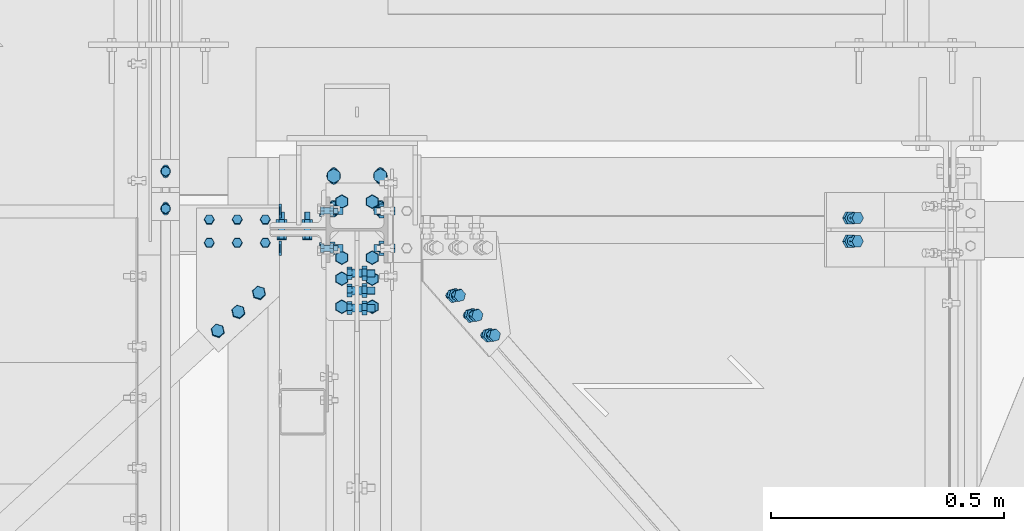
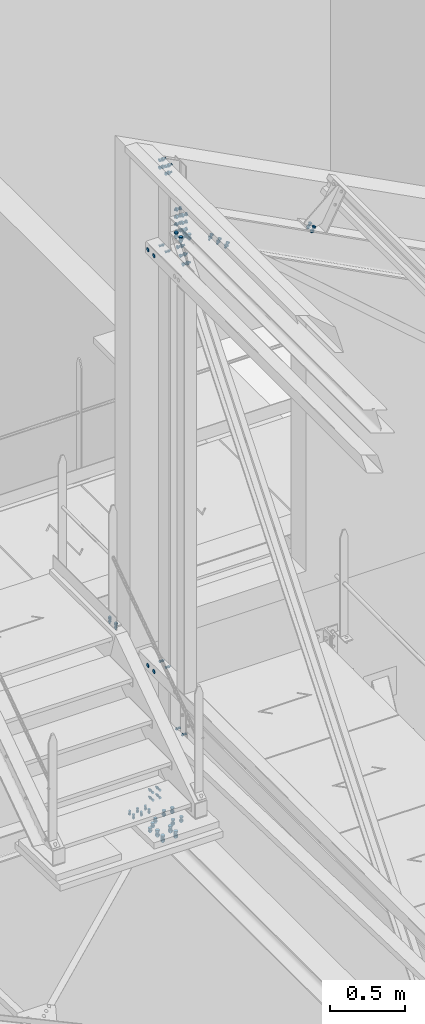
# One storey, part 157 of 362: 17 mechanical fasteners.
"""IFC2X3 building model written with IfcOpenShell, lengths in millimetres."""

from ifc_helpers import new_model, si_unit, frame, frame_2d, origin_with_axes, origin_2d_with_axis, place, context, subcontext, project, spatial, polyline, circle_curve, parameter, trimmed, segment, composite_curve, circle, outline, extrude, source, transform, mapped, material, type_object, element, save


model = new_model("IFC2X3")

# Units and contexts
model_context = context("Model", 3, precision=1e-05, world=origin_with_axes())
body_context = subcontext(model_context, "Body", "Model", "MODEL_VIEW")
ifc_project = project(units=[si_unit("LENGTHUNIT", "METRE", prefix="MILLI"), si_unit("AREAUNIT", "SQUARE_METRE"), si_unit("VOLUMEUNIT", "CUBIC_METRE"), si_unit("MASSUNIT", "GRAM", prefix="KILO"), si_unit("TIMEUNIT", "SECOND"), si_unit("PLANEANGLEUNIT", "RADIAN"), si_unit("SOLIDANGLEUNIT", "STERADIAN"), si_unit("THERMODYNAMICTEMPERATUREUNIT", "DEGREE_CELSIUS"), si_unit("LUMINOUSINTENSITYUNIT", "LUMEN")], contexts=[model_context])

# Site, building, storey
site_placement = place(None, origin_with_axes())
site = spatial("IfcSite", under=ifc_project, at=site_placement, Name="Undefined", CompositionType="ELEMENT")
building_placement = place(site_placement, origin_with_axes())
building = spatial("IfcBuilding", under=site, at=building_placement, Name="Undefined", CompositionType="ELEMENT")
storey_placement = place(building_placement, origin_with_axes())
storey = spatial("IfcBuildingStorey", under=building, at=storey_placement, Name="Undefined", CompositionType="ELEMENT", Elevation=0.0)

# Mechanical fasteners
ifc_material_1 = material(Name="8.8-SB-GALVA")
mechanical_fastener_type = type_object("IfcMechanicalFastenerType", Name="Bolt assembly")
shared_shape_1 = source(origin_with_axes(), body_context, "Body", "SweptSolid", [
    extrude(circle(Radius=7.0, at=origin_2d_with_axis()), frame((0.0, -0.100011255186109, 0.0), z_axis=(0.0, 1.0, 0.0), x_axis=(1.0, 0.0, 0.0)), (0.0, 0.0, 1.0), 12.9),
    extrude(outline(composite_curve([segment(polyline([(-7.0, 7.0), (7.0, 7.0)]), True, "CONTINUOUS"), segment(trimmed(circle_curve(frame_2d((7.0, 0.0), x_axis=(0.0, 1.0)), 7.0), [parameter(0.0)], [parameter(3.14159265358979)], False, "PARAMETER"), True, "CONTINUOUS"), segment(polyline([(7.0, -7.0), (-7.0, -7.0)]), True, "CONTINUOUS"), segment(trimmed(circle_curve(frame_2d((-7.0, 0.0), x_axis=(0.0, -1.0)), 7.0), [parameter(0.0)], [parameter(3.14159265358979)], False, "PARAMETER"), True, "DISCONTINUOUS")], self_intersect=False)), frame((0.0, -9.9, 0.0), z_axis=(0.0, 1.0, 0.0), x_axis=(1.0, 0.0, 0.0)), (0.0, 0.0, 1.0), 10.0),
    extrude(outline(polyline([(10.39230484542, 0.0), (5.19615242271, 9.00000000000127), (-5.19615242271, 9.00000000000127), (-10.39230484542, 0.0), (-5.19615242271, -9.00000000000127), (5.19615242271, -9.00000000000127), (10.39230484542, 0.0)])), frame((0.0, -21.88, 0.0), z_axis=(0.0, 1.0, 0.0), x_axis=(1.0, 0.0, 0.0)), (0.0, 0.0, 1.0), 7.92),
    extrude(circle(Radius=6.0, at=origin_2d_with_axis()), frame((0.0, -13.96, 0.0), z_axis=(0.0, 1.0, 0.0), x_axis=(1.0, 0.0, 0.0)), (0.0, 0.0, 1.0), 50.0),
    extrude(circle(Radius=10.8, at=origin_2d_with_axis()), frame((0.0, -13.96, 0.0), z_axis=(0.0, 1.0, 0.0), x_axis=(1.0, 0.0, 0.0)), (0.0, 0.0, 1.0), 3.96),
    extrude(outline(polyline([(11.5008173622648, 0.0), (5.7504086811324, 9.96000000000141), (-5.7504086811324, 9.96000000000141), (-11.5008173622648, 0.0), (-5.7504086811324, -9.96000000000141), (5.7504086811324, -9.96000000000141), (11.5008173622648, 0.0)])), frame((0.0, 12.8008451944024, 0.0), z_axis=(0.0, 1.0, 0.0), x_axis=(1.0, 0.0, 0.0)), (0.0, 0.0, 1.0), 7.92),
])
mechanical_fastener_1_placement = place(storey_placement, frame((12269.9936634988, 15245.0038033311, 8910.0), z_axis=(-1.0, 0.0, 0.0), x_axis=(0.0, 1.0, 0.0)))
element("IfcMechanicalFastener", 1, at=mechanical_fastener_1_placement, inside=storey, type_object=mechanical_fastener_type, material=ifc_material_1, Name="Bolt assembly", NominalDiameter=12.0, NominalLength=50.0, context=body_context, shape_type="MappedRepresentation", body=[
    mapped(shared_shape_1, transform((0.0, 0.0, 0.0))),
    mapped(shared_shape_1, transform((80.0, 0.0, 0.0))),
])
ifc_material_2 = material(Name="6.8")
shared_shape_2 = source(origin_with_axes(), body_context, "Body", "SweptSolid", [
    extrude(circle(Radius=15.0, at=origin_2d_with_axis()), frame((0.0, 0.0, 0.0), z_axis=(0.0, 1.0, 0.0), x_axis=(1.0, 0.0, 0.0)), (0.0, 0.0, 1.0), 4.1),
])
mechanical_fastener_2_placement = place(storey_placement, frame((12513.5000000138, 15200.0, 11870.0), z_axis=(0.0, 1.0, 0.0), x_axis=(0.0, 0.0, 1.0)))
element("IfcMechanicalFastener", 2, at=mechanical_fastener_2_placement, inside=storey, type_object=mechanical_fastener_type, material=ifc_material_2, Name="Bolt assembly", NominalDiameter=30.0, NominalLength=4.0, context=body_context, shape_type="MappedRepresentation", body=[
    mapped(shared_shape_2, transform((0.0, 0.0, 40.0))),
    mapped(shared_shape_2, transform((0.0, 0.0, -40.0))),
])
mechanical_fastener_3_placement = place(storey_placement, frame((12513.5000000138, 15200.0, 8500.0), z_axis=(0.0, -1.0, 0.0), x_axis=(0.0, 0.0, -1.0)))
element("IfcMechanicalFastener", 3, at=mechanical_fastener_3_placement, inside=storey, type_object=mechanical_fastener_type, material=ifc_material_2, Name="Bolt assembly", NominalDiameter=30.0, NominalLength=4.0, context=body_context, shape_type="MappedRepresentation", body=[
    mapped(shared_shape_2, transform((0.0, 0.0, -40.0))),
    mapped(shared_shape_2, transform((0.0, 0.0, 40.0))),
])
ifc_material_3 = material(Name="8.8-SB-ZINGUE")
shared_shape_3 = source(origin_with_axes(), body_context, "Body", "SweptSolid", [
    extrude(circle(Radius=9.0, at=origin_2d_with_axis()), frame((0.0, -10.9000000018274, 0.0), z_axis=(0.0, 1.0, 0.0), x_axis=(1.0, 0.0, 0.0)), (0.0, 0.0, 1.0), 6.0),
    extrude(circle(Radius=9.0, at=origin_2d_with_axis()), frame((0.0, 4.9000000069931, 0.0), z_axis=(0.0, 1.0, 0.0), x_axis=(1.0, 0.0, 0.0)), (0.0, 0.0, 1.0), 6.1),
    extrude(circle(Radius=9.0, at=origin_2d_with_axis()), frame((0.0, -3.99999923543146, 0.0), z_axis=(0.0, 1.0, 0.0), x_axis=(1.0, 0.0, 0.0)), (0.0, 0.0, 1.0), 8.0),
    extrude(outline(polyline([(13.85640646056, 0.0), (6.92820323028, 12.0000000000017), (-6.92820323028, 12.0000000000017), (-13.85640646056, 0.0), (-6.92820323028, -12.0000000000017), (6.92820323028, -12.0000000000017), (13.85640646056, 0.0)])), frame((0.0, -21.5600000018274, 0.0), z_axis=(0.0, 1.0, 0.0), x_axis=(1.0, 0.0, 0.0)), (0.0, 0.0, 1.0), 10.56),
    extrude(circle(Radius=8.0, at=origin_2d_with_axis()), frame((0.0, -11.0000000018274, 0.0), z_axis=(0.0, 1.0, 0.0), x_axis=(1.0, 0.0, 0.0)), (0.0, 0.0, 1.0), 50.0),
    extrude(outline(polyline([(15.3344231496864, 0.0), (7.6672115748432, 13.2800000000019), (-7.6672115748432, 13.2800000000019), (-15.3344231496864, 0.0), (-7.6672115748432, -13.2800000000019), (7.6672115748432, -13.2800000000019), (15.3344231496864, 0.0)])), frame((0.0, 11.0000000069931, 0.0), z_axis=(0.0, 1.0, 0.0), x_axis=(1.0, 0.0, 0.0)), (0.0, 0.0, 1.0), 10.56),
])
mechanical_fastener_4_placement = place(storey_placement, frame((12680.0, 15106.739370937, 11919.5161497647), z_axis=(0.0, -0.783225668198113, 0.621737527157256), x_axis=(0.0, -0.621737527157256, -0.783225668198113)))
element("IfcMechanicalFastener", 4, at=mechanical_fastener_4_placement, inside=storey, type_object=mechanical_fastener_type, material=ifc_material_3, Name="Bolt assembly", NominalDiameter=16.0, NominalLength=50.0, context=body_context, shape_type="MappedRepresentation", body=[
    mapped(shared_shape_3, transform((0.0, 0.0, 0.0))),
    mapped(shared_shape_3, transform((60.0, 0.0, 0.0))),
    mapped(shared_shape_3, transform((120.0, 0.0, 0.0))),
])
shared_shape_4 = source(origin_with_axes(), body_context, "Body", "SweptSolid", [
    extrude(circle(Radius=9.0, at=origin_2d_with_axis()), frame((0.0, 5.89749077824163, 0.0), z_axis=(0.0, 1.0, 0.0), x_axis=(1.0, 0.0, 0.0)), (0.0, 0.0, 1.0), 5.1),
    extrude(circle(Radius=9.0, at=origin_2d_with_axis()), frame((0.0, 0.1, 0.0), z_axis=(0.0, 1.0, 0.0), x_axis=(1.0, 0.0, 0.0)), (0.0, 0.0, 1.0), 6.0),
    extrude(outline(polyline([(13.85640646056, 0.0), (6.92820323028, 12.0000000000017), (-6.92820323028, 12.0000000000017), (-13.85640646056, 0.0), (-6.92820323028, -12.0000000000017), (6.92820323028, -12.0000000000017), (13.85640646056, 0.0)])), frame((0.0, -10.5600019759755, 0.0), z_axis=(0.0, 1.0, 0.0), x_axis=(1.0, 0.0, 0.0)), (0.0, 0.0, 1.0), 10.56),
    extrude(circle(Radius=8.0, at=origin_2d_with_axis()), frame((0.0, 0.0, 0.0), z_axis=(0.0, 1.0, 0.0), x_axis=(1.0, 0.0, 0.0)), (0.0, 0.0, 1.0), 30.0),
    extrude(outline(polyline([(15.3344231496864, 0.0), (7.6672115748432, 13.2800000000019), (-7.6672115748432, 13.2800000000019), (-15.3344231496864, 0.0), (-7.6672115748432, -13.2800000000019), (7.6672115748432, -13.2800000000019), (15.3344231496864, 0.0)])), frame((0.0, 10.9974907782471, 0.0), z_axis=(0.0, 1.0, 0.0), x_axis=(1.0, 0.0, 0.0)), (0.0, 0.0, 1.0), 10.56),
])
mechanical_fastener_5_placement = place(storey_placement, frame((12469.9723570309, 15064.9137448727, 7376.46725450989), z_axis=(0.676965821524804, -0.735651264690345, 0.0231191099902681), x_axis=(-0.73601445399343, -0.676631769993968, 0.021264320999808)))
element("IfcMechanicalFastener", 5, at=mechanical_fastener_5_placement, inside=storey, type_object=mechanical_fastener_type, material=ifc_material_3, Name="Bolt assembly", NominalDiameter=16.0, NominalLength=30.0, context=body_context, shape_type="MappedRepresentation", body=[
    mapped(shared_shape_4, transform((0.0, 0.0, 0.0))),
    mapped(shared_shape_4, transform((60.0, 0.0, 0.0))),
    mapped(shared_shape_4, transform((120.0, 0.0, 0.0))),
])
shared_shape_5 = source(origin_with_axes(), body_context, "Body", "SweptSolid", [
    extrude(circle(Radius=7.0, at=origin_2d_with_axis()), frame((0.0, -8.40001950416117, 0.0), z_axis=(0.0, 1.0, 0.0), x_axis=(1.0, 0.0, 0.0)), (0.0, 0.0, 1.0), 8.5),
    extrude(circle(Radius=7.0, at=origin_2d_with_axis()), frame((0.0, -0.100011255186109, 0.0), z_axis=(0.0, 1.0, 0.0), x_axis=(1.0, 0.0, 0.0)), (0.0, 0.0, 1.0), 6.1),
    extrude(outline(polyline([(10.39230484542, 0.0), (5.19615242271, 9.00000000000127), (-5.19615242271, 9.00000000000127), (-10.39230484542, 0.0), (-5.19615242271, -9.00000000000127), (5.19615242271, -9.00000000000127), (10.39230484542, 0.0)])), frame((0.0, -16.4200195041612, 0.0), z_axis=(0.0, 1.0, 0.0), x_axis=(1.0, 0.0, 0.0)), (0.0, 0.0, 1.0), 7.92),
    extrude(circle(Radius=6.0, at=origin_2d_with_axis()), frame((0.0, -8.5, 0.0), z_axis=(0.0, 1.0, 0.0), x_axis=(1.0, 0.0, 0.0)), (0.0, 0.0, 1.0), 30.0),
    extrude(outline(polyline([(11.5008173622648, 0.0), (5.7504086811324, 9.96000000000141), (-5.7504086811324, 9.96000000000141), (-11.5008173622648, 0.0), (-5.7504086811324, -9.96000000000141), (5.7504086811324, -9.96000000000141), (11.5008173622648, 0.0)])), frame((0.0, 6.0, 0.0), z_axis=(0.0, 1.0, 0.0), x_axis=(1.0, 0.0, 0.0)), (0.0, 0.0, 1.0), 7.92),
])
mechanical_fastener_6_placement = place(storey_placement, frame((12483.4999930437, 15196.8588775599, 7372.32065103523), z_axis=(0.0, -0.999506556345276, 0.031410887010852), x_axis=(-1.0, 0.0, 0.0)))
element("IfcMechanicalFastener", 6, at=mechanical_fastener_6_placement, inside=storey, type_object=mechanical_fastener_type, material=ifc_material_3, Name="Bolt assembly", NominalDiameter=12.0, NominalLength=30.0, context=body_context, shape_type="MappedRepresentation", body=[
    mapped(shared_shape_5, transform((0.0, 0.0, -25.0))),
    mapped(shared_shape_5, transform((59.9999999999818, -8.18545231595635e-12, -25.0000000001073))),
    mapped(shared_shape_5, transform((119.999999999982, -1.72803993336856e-11, -25.0000000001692))),
    mapped(shared_shape_5, transform((0.0, 0.0, 25.0))),
    mapped(shared_shape_5, transform((60.00000000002, -1.00044417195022e-11, 24.9999999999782))),
    mapped(shared_shape_5, transform((120.00000000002, -1.90993887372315e-11, 24.9999999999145))),
])
shared_shape_6 = source(origin_with_axes(), body_context, "Body", "SweptSolid", [
    extrude(circle(Radius=7.0, at=origin_2d_with_axis()), frame((0.0, -0.0917710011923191, 0.0), z_axis=(0.0, 1.0, 0.0), x_axis=(1.0, 0.0, 0.0)), (0.0, 0.0, 1.0), 8.6),
    extrude(circle(Radius=7.0, at=origin_2d_with_axis()), frame((0.0, -6.9, 0.0), z_axis=(0.0, 1.0, 0.0), x_axis=(1.0, 0.0, 0.0)), (0.0, 0.0, 1.0), 7.0),
    extrude(outline(polyline([(10.39230484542, 0.0), (5.19615242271, 9.00000000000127), (-5.19615242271, 9.00000000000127), (-10.39230484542, 0.0), (-5.19615242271, -9.00000000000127), (5.19615242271, -9.00000000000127), (10.39230484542, 0.0)])), frame((0.0, -14.92, 0.0), z_axis=(0.0, 1.0, 0.0), x_axis=(1.0, 0.0, 0.0)), (0.0, 0.0, 1.0), 7.92),
    extrude(circle(Radius=6.0, at=origin_2d_with_axis()), frame((0.0, -7.0, 0.0), z_axis=(0.0, 1.0, 0.0), x_axis=(1.0, 0.0, 0.0)), (0.0, 0.0, 1.0), 30.0),
    extrude(outline(polyline([(11.5008173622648, 0.0), (5.7504086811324, 9.96000000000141), (-5.7504086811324, 9.96000000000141), (-11.5008173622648, 0.0), (-5.7504086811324, -9.96000000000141), (5.7504086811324, -9.96000000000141), (11.5008173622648, 0.0)])), frame((0.0, 8.50822899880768, 0.0), z_axis=(0.0, 1.0, 0.0), x_axis=(1.0, 0.0, 0.0)), (0.0, 0.0, 1.0), 7.92),
])
mechanical_fastener_7_placement = place(storey_placement, frame((12746.5082291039, 15200.0, 7909.99999999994), z_axis=(0.0, -1.0, 0.0), x_axis=(0.0, 0.0, 1.0)))
element("IfcMechanicalFastener", 7, at=mechanical_fastener_7_placement, inside=storey, type_object=mechanical_fastener_type, material=ifc_material_3, Name="Bolt assembly", NominalDiameter=12.0, NominalLength=30.0, context=body_context, shape_type="MappedRepresentation", body=[
    mapped(shared_shape_6, transform((0.0, 0.0, -40.0))),
    mapped(shared_shape_6, transform((0.0, 0.0, 40.0))),
])
shared_shape_7 = source(origin_with_axes(), body_context, "Body", "SweptSolid", [
    extrude(circle(Radius=9.0, at=origin_2d_with_axis()), frame((0.0, -0.10007666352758, 0.0), z_axis=(0.0, 1.0, 0.0), x_axis=(1.0, 0.0, 0.0)), (0.0, 0.0, 1.0), 9.9),
    extrude(circle(Radius=9.0, at=origin_2d_with_axis()), frame((0.0, -9.9, 0.0), z_axis=(0.0, 1.0, 0.0), x_axis=(1.0, 0.0, 0.0)), (0.0, 0.0, 1.0), 10.0),
    extrude(outline(polyline([(13.85640646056, 0.0), (6.92820323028, 12.0000000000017), (-6.92820323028, 12.0000000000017), (-13.85640646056, 0.0), (-6.92820323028, -12.0000000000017), (6.92820323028, -12.0000000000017), (13.85640646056, 0.0)])), frame((0.0, -20.5600000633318, 0.0), z_axis=(0.0, 1.0, 0.0), x_axis=(1.0, 0.0, 0.0)), (0.0, 0.0, 1.0), 10.56),
    extrude(circle(Radius=8.0, at=origin_2d_with_axis()), frame((0.0, -10.0000010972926, 0.0), z_axis=(0.0, 1.0, 0.0), x_axis=(1.0, 0.0, 0.0)), (0.0, 0.0, 1.0), 40.0),
    extrude(outline(polyline([(15.3344231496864, 0.0), (7.6672115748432, 13.2800000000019), (-7.6672115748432, 13.2800000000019), (-15.3344231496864, 0.0), (-7.6672115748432, -13.2800000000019), (7.6672115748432, -13.2800000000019), (15.3344231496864, 0.0)])), frame((0.0, 9.7999015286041, 0.0), z_axis=(0.0, 1.0, 0.0), x_axis=(1.0, 0.0, 0.0)), (0.0, 0.0, 1.0), 10.56),
])
mechanical_fastener_8_placement = place(storey_placement, frame((13742.7711979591, 15200.0000375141, 11650.6600426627), z_axis=(0.0, 1.0, 0.0), x_axis=(0.886081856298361, 3.500000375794e-08, -0.463528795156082)))
element("IfcMechanicalFastener", 8, at=mechanical_fastener_8_placement, inside=storey, type_object=mechanical_fastener_type, material=ifc_material_3, Name="Bolt assembly", NominalDiameter=16.0, NominalLength=40.0, context=body_context, shape_type="MappedRepresentation", body=[
    mapped(shared_shape_7, transform((0.0, 0.0, -25.0))),
    mapped(shared_shape_7, transform((0.0, 0.0, 25.0))),
])
ifc_material_4 = material(Name="#_SB-8.8-ZINGUE")
shared_shape_8 = source(origin_with_axes(), body_context, "Body", "SweptSolid", [
    extrude(circle(Radius=9.0, at=origin_2d_with_axis()), frame((0.0, -5.9000361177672, 0.0), z_axis=(0.0, 1.0, 0.0), x_axis=(1.0, 0.0, 0.0)), (0.0, 0.0, 1.0), 6.0),
    extrude(circle(Radius=9.0, at=origin_2d_with_axis()), frame((0.0, -0.100011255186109, 0.0), z_axis=(0.0, 1.0, 0.0), x_axis=(1.0, 0.0, 0.0)), (0.0, 0.0, 1.0), 6.1),
    extrude(outline(polyline([(13.85640646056, 0.0), (6.92820323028, 12.0000000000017), (-6.92820323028, 12.0000000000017), (-13.85640646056, 0.0), (-6.92820323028, -12.0000000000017), (6.92820323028, -12.0000000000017), (13.85640646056, 0.0)])), frame((0.0, -16.5600265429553, 0.0), z_axis=(0.0, 1.0, 0.0), x_axis=(1.0, 0.0, 0.0)), (0.0, 0.0, 1.0), 10.56),
    extrude(circle(Radius=8.0, at=origin_2d_with_axis()), frame((0.0, -6.00003611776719, 0.0), z_axis=(0.0, 1.0, 0.0), x_axis=(1.0, 0.0, 0.0)), (0.0, 0.0, 1.0), 40.0),
    extrude(outline(polyline([(15.3344231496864, 0.0), (7.6672115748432, 13.2800000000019), (-7.6672115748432, 13.2800000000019), (-15.3344231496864, 0.0), (-7.6672115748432, -13.2800000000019), (7.6672115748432, -13.2800000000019), (15.3344231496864, 0.0)])), frame((0.0, 6.0, 0.0), z_axis=(0.0, 1.0, 0.0), x_axis=(1.0, 0.0, 0.0)), (0.0, 0.0, 1.0), 10.56),
])
mechanical_fastener_9_placement = place(storey_placement, frame((12892.7685695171, 15059.0095093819, 11959.8870358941), z_axis=(0.628485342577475, 0.704921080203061, -0.328774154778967), x_axis=(0.624617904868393, -0.709285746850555, -0.326750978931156)))
element("IfcMechanicalFastener", 9, at=mechanical_fastener_9_placement, inside=storey, type_object=mechanical_fastener_type, material=ifc_material_4, Name="Bolt assembly", NominalDiameter=16.0, NominalLength=40.0, context=body_context, shape_type="MappedRepresentation", body=[
    mapped(shared_shape_8, transform((0.0, 0.0, 0.0))),
    mapped(shared_shape_8, transform((60.0, 0.0, 0.0))),
    mapped(shared_shape_8, transform((120.0, 0.0, 0.0))),
])
shared_shape_9 = source(origin_with_axes(), body_context, "Body", "SweptSolid", [
    extrude(circle(Radius=9.0, at=origin_2d_with_axis()), frame((0.0, -0.091713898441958, 0.0), z_axis=(0.0, 1.0, 0.0), x_axis=(1.0, 0.0, 0.0)), (0.0, 0.0, 1.0), 8.6),
    extrude(circle(Radius=9.0, at=origin_2d_with_axis()), frame((0.0, -9.89171439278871, 0.0), z_axis=(0.0, 1.0, 0.0), x_axis=(1.0, 0.0, 0.0)), (0.0, 0.0, 1.0), 10.0),
    extrude(outline(polyline([(13.85640646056, 0.0), (6.92820323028, 12.0000000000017), (-6.92820323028, 12.0000000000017), (-13.85640646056, 0.0), (-6.92820323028, -12.0000000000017), (6.92820323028, -12.0000000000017), (13.85640646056, 0.0)])), frame((0.0, -20.5517143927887, 0.0), z_axis=(0.0, 1.0, 0.0), x_axis=(1.0, 0.0, 0.0)), (0.0, 0.0, 1.0), 10.56),
    extrude(circle(Radius=8.0, at=origin_2d_with_axis()), frame((0.0, -9.99171439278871, 0.0), z_axis=(0.0, 1.0, 0.0), x_axis=(1.0, 0.0, 0.0)), (0.0, 0.0, 1.0), 40.0),
    extrude(outline(polyline([(15.3344231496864, 0.0), (7.6672115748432, 13.2800000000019), (-7.6672115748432, 13.2800000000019), (-15.3344231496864, 0.0), (-7.6672115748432, -13.2800000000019), (7.6672115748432, -13.2800000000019), (15.3344231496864, 0.0)])), frame((0.0, 8.50828610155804, 0.0), z_axis=(0.0, 1.0, 0.0), x_axis=(1.0, 0.0, 0.0)), (0.0, 0.0, 1.0), 10.56),
])
mechanical_fastener_10_placement = place(storey_placement, frame((12746.5082856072, 15160.0, 12031.1720690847), z_axis=(0.0, 0.0, 1.0), x_axis=(0.0, 1.0, 0.0)))
element("IfcMechanicalFastener", 10, at=mechanical_fastener_10_placement, inside=storey, type_object=mechanical_fastener_type, material=ifc_material_3, Name="Bolt assembly", NominalDiameter=16.0, NominalLength=40.0, context=body_context, shape_type="MappedRepresentation", body=[
    mapped(shared_shape_9, transform((-8.00355337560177e-11, 1.57342583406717e-10, -90.000000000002))),
    mapped(shared_shape_9, transform((80.0, 0.0, -90.0))),
    mapped(shared_shape_9, transform((0.0, 0.0, -30.0))),
    mapped(shared_shape_9, transform((80.0, 0.0, -30.0))),
    mapped(shared_shape_9, transform((0.0, 0.0, 30.0))),
    mapped(shared_shape_9, transform((80.0, 0.0, 30.0))),
    mapped(shared_shape_9, transform((8.36735125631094e-11, -1.5825207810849e-10, 90.0))),
    mapped(shared_shape_9, transform((80.0, 0.0, 90.0))),
])
shared_shape_10 = source(origin_with_axes(), body_context, "Body", "SweptSolid", [
    extrude(circle(Radius=7.0, at=origin_2d_with_axis()), frame((0.0, -3.89999843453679, 0.0), z_axis=(0.0, 1.0, 0.0), x_axis=(1.0, 0.0, 0.0)), (0.0, 0.0, 1.0), 4.0),
    extrude(circle(Radius=7.0, at=origin_2d_with_axis()), frame((0.0, -0.100011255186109, 0.0), z_axis=(0.0, 1.0, 0.0), x_axis=(1.0, 0.0, 0.0)), (0.0, 0.0, 1.0), 8.6),
    extrude(outline(polyline([(10.39230484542, 0.0), (5.19615242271, 9.00000000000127), (-5.19615242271, 9.00000000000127), (-10.39230484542, 0.0), (-5.19615242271, -9.00000000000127), (5.19615242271, -9.00000000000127), (10.39230484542, 0.0)])), frame((0.0, -11.9199984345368, 0.0), z_axis=(0.0, 1.0, 0.0), x_axis=(1.0, 0.0, 0.0)), (0.0, 0.0, 1.0), 7.92),
    extrude(circle(Radius=6.0, at=origin_2d_with_axis()), frame((0.0, -3.99999923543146, 0.0), z_axis=(0.0, 1.0, 0.0), x_axis=(1.0, 0.0, 0.0)), (0.0, 0.0, 1.0), 30.0),
    extrude(outline(polyline([(11.5008173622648, 0.0), (5.7504086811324, 9.96000000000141), (-5.7504086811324, 9.96000000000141), (-11.5008173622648, 0.0), (-5.7504086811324, -9.96000000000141), (5.7504086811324, -9.96000000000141), (11.5008173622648, 0.0)])), frame((0.0, 8.49999994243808, 0.0), z_axis=(0.0, 1.0, 0.0), x_axis=(1.0, 0.0, 0.0)), (0.0, 0.0, 1.0), 7.92),
])
for number, where, z_axis, x_axis, name in (
    (11, (12613.5, 15200.0, 11870.0), (0.0, 1.0, 0.0), (0.0, 0.0, 1.0), "Bolt assembly"),
    (12, (12613.5, 15200.0, 8500.0), (0.0, -1.0, 0.0), (0.0, 0.0, -1.0), "Bolt assembly"),
):
    element("IfcMechanicalFastener", number, at=place(storey_placement, frame(where, z_axis=z_axis, x_axis=x_axis)), inside=storey, type_object=mechanical_fastener_type, material=ifc_material_3, Name=name, NominalDiameter=12.0, NominalLength=30.0, context=body_context, shape_type="MappedRepresentation", body=[
        mapped(shared_shape_10, transform((0.0, 0.0, -40.0))),
        mapped(shared_shape_10, transform((0.0, 0.0, 40.0))),
    ])
shared_shape_11 = source(origin_with_axes(), body_context, "Body", "SweptSolid", [
    extrude(circle(Radius=9.0, at=origin_2d_with_axis()), frame((0.0, -0.100011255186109, 0.0), z_axis=(0.0, 1.0, 0.0), x_axis=(1.0, 0.0, 0.0)), (0.0, 0.0, 1.0), 8.6),
    extrude(circle(Radius=9.0, at=origin_2d_with_axis()), frame((0.0, -2.9, 0.0), z_axis=(0.0, 1.0, 0.0), x_axis=(1.0, 0.0, 0.0)), (0.0, 0.0, 1.0), 3.0),
    extrude(outline(polyline([(13.85640646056, 0.0), (6.92820323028, 12.0000000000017), (-6.92820323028, 12.0000000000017), (-13.85640646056, 0.0), (-6.92820323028, -12.0000000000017), (6.92820323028, -12.0000000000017), (13.85640646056, 0.0)])), frame((0.0, -13.56, 0.0), z_axis=(0.0, 1.0, 0.0), x_axis=(1.0, 0.0, 0.0)), (0.0, 0.0, 1.0), 10.56),
    extrude(circle(Radius=8.0, at=origin_2d_with_axis()), frame((0.0, -2.99999932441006, 0.0), z_axis=(0.0, 1.0, 0.0), x_axis=(1.0, 0.0, 0.0)), (0.0, 0.0, 1.0), 40.0),
    extrude(outline(polyline([(15.3344231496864, 0.0), (7.6672115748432, 13.2800000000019), (-7.6672115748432, 13.2800000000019), (-15.3344231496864, 0.0), (-7.6672115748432, -13.2800000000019), (7.6672115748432, -13.2800000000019), (15.3344231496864, 0.0)])), frame((0.0, 8.49999994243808, 0.0), z_axis=(0.0, 1.0, 0.0), x_axis=(1.0, 0.0, 0.0)), (0.0, 0.0, 1.0), 10.56),
])
mechanical_fastener_11_placement = place(storey_placement, frame((12613.5000000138, 15200.0, 12503.832072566), z_axis=(0.0, 1.0, 0.0), x_axis=(0.0, 0.0, 1.0)))
element("IfcMechanicalFastener", 13, at=mechanical_fastener_11_placement, inside=storey, type_object=mechanical_fastener_type, material=ifc_material_3, Name="Bolt assembly", NominalDiameter=16.0, NominalLength=40.0, context=body_context, shape_type="MappedRepresentation", body=[
    mapped(shared_shape_11, transform((0.0, 0.0, -40.0))),
    mapped(shared_shape_11, transform((60.0, 0.0, -40.0))),
    mapped(shared_shape_11, transform((0.0, 0.0, 40.0))),
    mapped(shared_shape_11, transform((60.0, 0.0, 40.0))),
])
shared_shape_12 = source(origin_with_axes(), body_context, "Body", "SweptSolid", [
    extrude(circle(Radius=7.0, at=origin_2d_with_axis()), frame((0.0, -2.80024280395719, 0.0), z_axis=(0.0, 1.0, 0.0), x_axis=(1.0, 0.0, 0.0)), (0.0, 0.0, 1.0), 5.6),
    extrude(circle(Radius=7.0, at=origin_2d_with_axis()), frame((0.0, -12.9001594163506, 0.0), z_axis=(0.0, 1.0, 0.0), x_axis=(1.0, 0.0, 0.0)), (0.0, 0.0, 1.0), 10.0),
    extrude(circle(Radius=7.0, at=origin_2d_with_axis()), frame((0.0, 2.90070287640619, 0.0), z_axis=(0.0, 1.0, 0.0), x_axis=(1.0, 0.0, 0.0)), (0.0, 0.0, 1.0), 10.1),
    extrude(outline(polyline([(10.39230484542, 0.0), (5.19615242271, 9.00000000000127), (-5.19615242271, 9.00000000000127), (-10.39230484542, 0.0), (-5.19615242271, -9.00000000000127), (5.19615242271, -9.00000000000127), (10.39230484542, 0.0)])), frame((0.0, -20.9201594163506, 0.0), z_axis=(0.0, 1.0, 0.0), x_axis=(1.0, 0.0, 0.0)), (0.0, 0.0, 1.0), 7.92),
    extrude(circle(Radius=6.0, at=origin_2d_with_axis()), frame((0.0, -13.0001594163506, 0.0), z_axis=(0.0, 1.0, 0.0), x_axis=(1.0, 0.0, 0.0)), (0.0, 0.0, 1.0), 50.0),
    extrude(outline(polyline([(11.5008173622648, 0.0), (5.7504086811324, 9.96000000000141), (-5.7504086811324, 9.96000000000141), (-11.5008173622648, 0.0), (-5.7504086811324, -9.96000000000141), (5.7504086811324, -9.96000000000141), (11.5008173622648, 0.0)])), frame((0.0, 13.0007028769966, 0.0), z_axis=(0.0, 1.0, 0.0), x_axis=(1.0, 0.0, 0.0)), (0.0, 0.0, 1.0), 7.92),
])
mechanical_fastener_12_placement = place(storey_placement, frame((12518.4999999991, 15200.0000913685, 7472.26782933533), z_axis=(7.58071938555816e-11, 0.0314107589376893, 0.999506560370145), x_axis=(0.999999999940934, -1.08559999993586e-05, 5.27999997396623e-07)))
element("IfcMechanicalFastener", 14, at=mechanical_fastener_12_placement, inside=storey, type_object=mechanical_fastener_type, material=ifc_material_3, Name="Bolt assembly", NominalDiameter=12.0, NominalLength=50.0, context=body_context, shape_type="MappedRepresentation", body=[
    mapped(shared_shape_12, transform((0.0, 0.0, -30.0))),
    mapped(shared_shape_12, transform((55.0000000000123, 3.45607986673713e-11, -30.0000000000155))),
    mapped(shared_shape_12, transform((0.0, 0.0, 30.0))),
    mapped(shared_shape_12, transform((54.9999999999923, 3.45607986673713e-11, 29.9999999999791))),
])
shared_shape_13 = source(origin_with_axes(), body_context, "Body", "SweptSolid", [
    extrude(circle(Radius=9.0, at=origin_2d_with_axis()), frame((0.0, -0.10007666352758, 0.0), z_axis=(0.0, 1.0, 0.0), x_axis=(1.0, 0.0, 0.0)), (0.0, 0.0, 1.0), 10.1),
    extrude(circle(Radius=9.0, at=origin_2d_with_axis()), frame((0.0, -9.9, 0.0), z_axis=(0.0, 1.0, 0.0), x_axis=(1.0, 0.0, 0.0)), (0.0, 0.0, 1.0), 10.0),
    extrude(outline(polyline([(13.85640646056, 0.0), (6.92820323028, 12.0000000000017), (-6.92820323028, 12.0000000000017), (-13.85640646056, 0.0), (-6.92820323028, -12.0000000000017), (6.92820323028, -12.0000000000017), (13.85640646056, 0.0)])), frame((0.0, -20.5600000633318, 0.0), z_axis=(0.0, 1.0, 0.0), x_axis=(1.0, 0.0, 0.0)), (0.0, 0.0, 1.0), 10.56),
    extrude(circle(Radius=8.0, at=origin_2d_with_axis()), frame((0.0, -10.0000010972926, 0.0), z_axis=(0.0, 1.0, 0.0), x_axis=(1.0, 0.0, 0.0)), (0.0, 0.0, 1.0), 40.0),
    extrude(outline(polyline([(15.3344231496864, 0.0), (7.6672115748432, 13.2800000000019), (-7.6672115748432, 13.2800000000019), (-15.3344231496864, 0.0), (-7.6672115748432, -13.2800000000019), (7.6672115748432, -13.2800000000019), (15.3344231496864, 0.0)])), frame((0.0, 9.99997734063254, 0.0), z_axis=(0.0, 1.0, 0.0), x_axis=(1.0, 0.0, 0.0)), (0.0, 0.0, 1.0), 10.56),
])
mechanical_fastener_13_placement = place(storey_placement, frame((12680.0, 15140.0, 7249.9999684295), z_axis=(-1.0, 0.0, 0.0), x_axis=(0.0, 1.0, 0.0)))
element("IfcMechanicalFastener", 15, at=mechanical_fastener_13_placement, inside=storey, type_object=mechanical_fastener_type, material=ifc_material_3, Name="Bolt assembly", NominalDiameter=16.0, NominalLength=40.0, context=body_context, shape_type="MappedRepresentation", body=[
    mapped(shared_shape_13, transform((0.0, 0.0, -32.5))),
    mapped(shared_shape_13, transform((120.0, 0.0, -32.5))),
    mapped(shared_shape_13, transform((0.0, 0.0, 32.5))),
    mapped(shared_shape_13, transform((120.0, 0.0, 32.5))),
])
shared_shape_14 = source(origin_with_axes(), body_context, "Body", "SweptSolid", [
    extrude(circle(Radius=9.0, at=origin_2d_with_axis()), frame((0.0, -8.40001950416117, 0.0), z_axis=(0.0, 1.0, 0.0), x_axis=(1.0, 0.0, 0.0)), (0.0, 0.0, 1.0), 8.5),
    extrude(circle(Radius=9.0, at=origin_2d_with_axis()), frame((0.0, -0.100011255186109, 0.0), z_axis=(0.0, 1.0, 0.0), x_axis=(1.0, 0.0, 0.0)), (0.0, 0.0, 1.0), 10.1),
    extrude(outline(polyline([(13.85640646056, 0.0), (6.92820323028, 12.0000000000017), (-6.92820323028, 12.0000000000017), (-13.85640646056, 0.0), (-6.92820323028, -12.0000000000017), (6.92820323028, -12.0000000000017), (13.85640646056, 0.0)])), frame((0.0, -19.0599999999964, 0.0), z_axis=(0.0, 1.0, 0.0), x_axis=(1.0, 0.0, 0.0)), (0.0, 0.0, 1.0), 10.56),
    extrude(circle(Radius=8.0, at=origin_2d_with_axis()), frame((0.0, -8.5, 0.0), z_axis=(0.0, 1.0, 0.0), x_axis=(1.0, 0.0, 0.0)), (0.0, 0.0, 1.0), 40.0),
    extrude(outline(polyline([(15.3344231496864, 0.0), (7.6672115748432, 13.2800000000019), (-7.6672115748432, 13.2800000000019), (-15.3344231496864, 0.0), (-7.6672115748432, -13.2800000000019), (7.6672115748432, -13.2800000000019), (15.3344231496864, 0.0)])), frame((0.0, 10.0000000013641, 0.0), z_axis=(0.0, 1.0, 0.0), x_axis=(1.0, 0.0, 0.0)), (0.0, 0.0, 1.0), 10.56),
])
mechanical_fastener_14_placement = place(storey_placement, frame((12680.0000000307, 15094.9969221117, 12037.0), z_axis=(1.0, 0.0, 0.0), x_axis=(0.0, -1.0, 0.0)))
element("IfcMechanicalFastener", 16, at=mechanical_fastener_14_placement, inside=storey, type_object=mechanical_fastener_type, material=ifc_material_3, Name="Bolt assembly", NominalDiameter=16.0, NominalLength=40.0, context=body_context, shape_type="MappedRepresentation", body=[
    mapped(shared_shape_14, transform((0.0, 0.0, 32.5))),
    mapped(shared_shape_14, transform((60.0, 0.0, 32.5))),
    mapped(shared_shape_14, transform((0.0, 0.0, -32.5))),
    mapped(shared_shape_14, transform((60.0, 0.0, -32.5))),
])
ifc_material_5 = material(Name="HR10.9")
shared_shape_15 = source(origin_with_axes(), body_context, "Body", "SweptSolid", [
    extrude(circle(Radius=9.0, at=origin_2d_with_axis()), frame((0.0, -9.9, 0.0), z_axis=(0.0, 1.0, 0.0), x_axis=(1.0, 0.0, 0.0)), (0.0, 0.0, 1.0), 10.0),
    extrude(outline(composite_curve([segment(polyline([(-9.0, 9.0), (9.0, 9.0)]), True, "CONTINUOUS"), segment(trimmed(circle_curve(frame_2d((9.0, 0.0), x_axis=(0.0, 1.0)), 9.0), [parameter(0.0)], [parameter(3.14159265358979)], False, "PARAMETER"), True, "CONTINUOUS"), segment(polyline([(9.0, -9.0), (-9.0, -9.0)]), True, "CONTINUOUS"), segment(trimmed(circle_curve(frame_2d((-9.0, 0.0), x_axis=(0.0, -1.0)), 9.0), [parameter(0.0)], [parameter(3.14159265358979)], False, "PARAMETER"), True, "DISCONTINUOUS")], self_intersect=False)), frame((0.0, -0.100011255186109, 0.0), z_axis=(0.0, 1.0, 0.0), x_axis=(1.0, 0.0, 0.0)), (0.0, 0.0, 1.0), 10.1),
    extrude(outline(polyline([(15.58845726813, 0.0), (7.794228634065, 13.5000000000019), (-7.794228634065, 13.5000000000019), (-15.58845726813, 0.0), (-7.794228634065, -13.5000000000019), (7.794228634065, -13.5000000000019), (15.58845726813, 0.0)])), frame((0.0, -23.9999981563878, 0.0), z_axis=(0.0, 1.0, 0.0), x_axis=(1.0, 0.0, 0.0)), (0.0, 0.0, 1.0), 10.0),
    extrude(circle(Radius=8.0, at=origin_2d_with_axis()), frame((0.0, -14.0000000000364, 0.0), z_axis=(0.0, 1.0, 0.0), x_axis=(1.0, 0.0, 0.0)), (0.0, 0.0, 1.0), 50.0),
    extrude(circle(Radius=15.0, at=origin_2d_with_axis()), frame((0.0, -14.0000000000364, 0.0), z_axis=(0.0, 1.0, 0.0), x_axis=(1.0, 0.0, 0.0)), (0.0, 0.0, 1.0), 4.0),
    extrude(circle(Radius=15.0, at=origin_2d_with_axis()), frame((0.0, 10.0000000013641, 0.0), z_axis=(0.0, 1.0, 0.0), x_axis=(1.0, 0.0, 0.0)), (0.0, 0.0, 1.0), 4.0),
    extrude(outline(polyline([(15.58845726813, 0.0), (7.794228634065, 13.5000000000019), (-7.794228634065, 13.5000000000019), (-15.58845726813, 0.0), (-7.794228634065, -13.5000000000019), (7.794228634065, -13.5000000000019), (15.58845726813, 0.0)])), frame((0.0, 13.9999928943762, 0.0), z_axis=(0.0, 1.0, 0.0), x_axis=(1.0, 0.0, 0.0)), (0.0, 0.0, 1.0), 15.0),
])
mechanical_fastener_15_placement = place(storey_placement, frame((12679.9999999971, 15245.0000004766, 7060.00000000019), z_axis=(-1.0, 0.0, 0.0), x_axis=(0.0, 1.0, 0.0)))
element("IfcMechanicalFastener", 17, at=mechanical_fastener_15_placement, inside=storey, type_object=mechanical_fastener_type, material=ifc_material_5, Name="Bolt assembly", NominalDiameter=16.0, NominalLength=50.0, context=body_context, shape_type="MappedRepresentation", body=[
    mapped(shared_shape_15, transform((0.0, 0.0, -50.0))),
    mapped(shared_shape_15, transform((70.0, 0.0, -50.0))),
    mapped(shared_shape_15, transform((0.0, 0.0, 50.0))),
    mapped(shared_shape_15, transform((70.0, 0.0, 50.0))),
])

save(model, "model.ifc")
